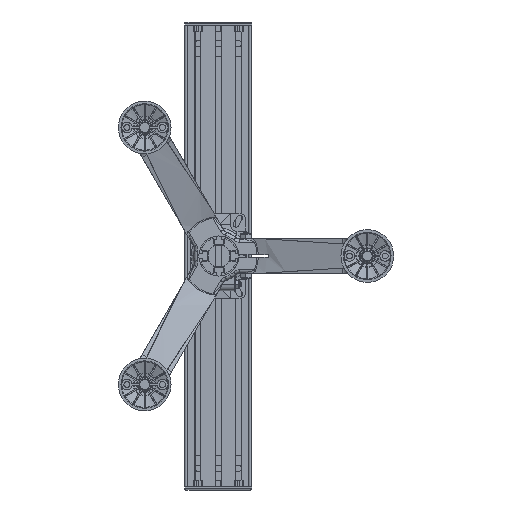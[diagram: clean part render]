
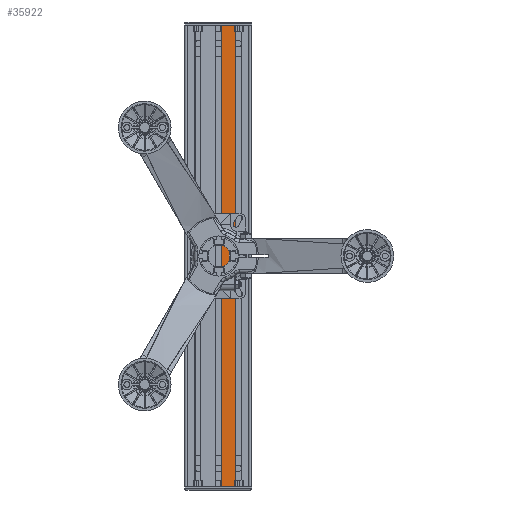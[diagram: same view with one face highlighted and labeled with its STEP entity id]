
A CAD part, front view. The second image highlights one B-rep face of the part: STEP entity #35922.
In plain terms, the highlighted planar face has unit normal (0, -1, 0).
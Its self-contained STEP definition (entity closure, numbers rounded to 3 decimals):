
#21759 = LINE ( 'NONE', #21818, #21795 ) ;
#21765 = CARTESIAN_POINT ( 'NONE',  ( 0., -14., -4.75 ) ) ;
#21795 = VECTOR ( 'NONE', #21817, 1000. ) ;
#21817 = DIRECTION ( 'NONE',  ( -1., 0., 0. ) ) ;
#21818 = CARTESIAN_POINT ( 'NONE',  ( 701., -14., -4.75 ) ) ;
#21833 = CARTESIAN_POINT ( 'NONE',  ( 701., -14., -4.75 ) ) ;
#21887 = DIRECTION ( 'NONE',  ( 0., 0., -1. ) ) ;
#21889 = VECTOR ( 'NONE', #21887, 1000. ) ;
#21890 = CARTESIAN_POINT ( 'NONE',  ( 0., -14., -26.25 ) ) ;
#21891 = AXIS2_PLACEMENT_3D ( 'NONE', #21950, #21946, #21945 ) ;
#21894 = PLANE ( 'NONE',  #21891 ) ;
#21895 = FACE_OUTER_BOUND ( 'NONE', #35936, .T. ) ;
#21906 = CARTESIAN_POINT ( 'NONE',  ( 701., -14., -26.25 ) ) ;
#21907 = LINE ( 'NONE', #21906, #21941 ) ;
#21911 = LINE ( 'NONE', #21890, #21889 ) ;
#21940 = DIRECTION ( 'NONE',  ( 0., 0., -1. ) ) ;
#21941 = VECTOR ( 'NONE', #21940, 1000. ) ;
#21943 = CARTESIAN_POINT ( 'NONE',  ( 701., -14., -26.25 ) ) ;
#21945 = DIRECTION ( 'NONE',  ( 0., 0., 1. ) ) ;
#21946 = DIRECTION ( 'NONE',  ( 0., 1., 0. ) ) ;
#21950 = CARTESIAN_POINT ( 'NONE',  ( 701., -14., -26.25 ) ) ;
#21951 = DIRECTION ( 'NONE',  ( -1., 0., 0. ) ) ;
#21952 = VECTOR ( 'NONE', #21951, 1000. ) ;
#21953 = CARTESIAN_POINT ( 'NONE',  ( 701., -14., -26.25 ) ) ;
#21954 = LINE ( 'NONE', #21953, #21952 ) ;
#21978 = CARTESIAN_POINT ( 'NONE',  ( 0., -14., -26.25 ) ) ;
#35858 = VERTEX_POINT ( 'NONE', #21765 ) ;
#35860 = EDGE_CURVE ( 'NONE', #35885, #35858, #21759, .T. ) ;
#35885 = VERTEX_POINT ( 'NONE', #21833 ) ;
#35904 = ORIENTED_EDGE ( 'NONE', *, *, #35860, .T. ) ;
#35917 = EDGE_CURVE ( 'NONE', #35858, #35934, #21911, .T. ) ;
#35920 = EDGE_CURVE ( 'NONE', #35928, #35934, #21954, .T. ) ;
#35922 = ADVANCED_FACE ( 'NONE', ( #21895 ), #21894, .F. ) ;
#35923 = ORIENTED_EDGE ( 'NONE', *, *, #35926, .F. ) ;
#35925 = ORIENTED_EDGE ( 'NONE', *, *, #35920, .F. ) ;
#35926 = EDGE_CURVE ( 'NONE', #35885, #35928, #21907, .T. ) ;
#35928 = VERTEX_POINT ( 'NONE', #21943 ) ;
#35932 = ORIENTED_EDGE ( 'NONE', *, *, #35917, .T. ) ;
#35934 = VERTEX_POINT ( 'NONE', #21978 ) ;
#35936 = EDGE_LOOP ( 'NONE', ( #35932, #35925, #35923, #35904 ) ) ;
